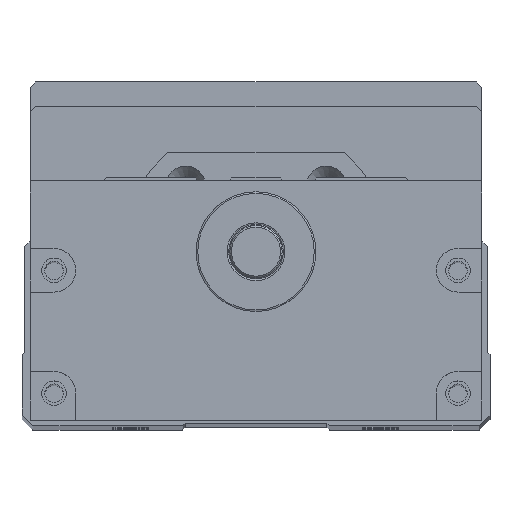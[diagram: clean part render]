
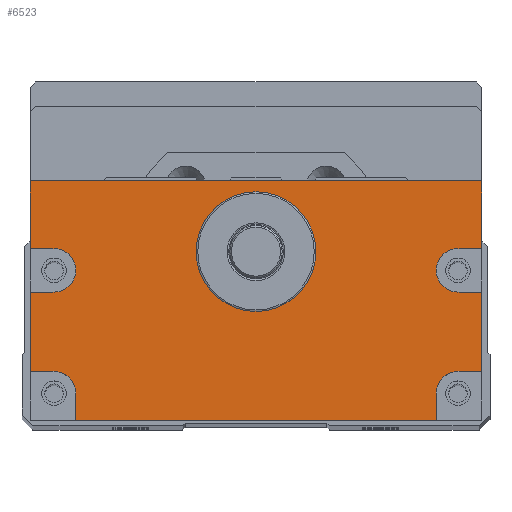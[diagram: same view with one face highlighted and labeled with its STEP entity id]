
A CAD part, top view. The second image highlights one B-rep face of the part: STEP entity #6523.
In plain terms, the highlighted planar face has unit normal (0, 0, 1).
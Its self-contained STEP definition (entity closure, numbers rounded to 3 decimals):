
#518=LINE('',#27308,#1245);
#520=LINE('',#27312,#1247);
#521=LINE('',#27315,#1248);
#522=LINE('',#27317,#1249);
#523=LINE('',#27321,#1250);
#524=LINE('',#27323,#1251);
#525=LINE('',#27324,#1252);
#526=LINE('',#27326,#1253);
#527=LINE('',#27330,#1254);
#528=LINE('',#27332,#1255);
#529=LINE('',#27334,#1256);
#530=LINE('',#27338,#1257);
#531=LINE('',#27340,#1258);
#532=LINE('',#27342,#1259);
#1245=VECTOR('',#15888,1.);
#1247=VECTOR('',#15892,1.);
#1248=VECTOR('',#15893,1.);
#1249=VECTOR('',#15894,1.);
#1250=VECTOR('',#15897,1.);
#1251=VECTOR('',#15898,1.);
#1252=VECTOR('',#15899,1.);
#1253=VECTOR('',#15900,1.);
#1254=VECTOR('',#15903,1.);
#1255=VECTOR('',#15904,1.);
#1256=VECTOR('',#15905,1.);
#1257=VECTOR('',#15908,1.);
#1258=VECTOR('',#15909,1.);
#1259=VECTOR('',#15910,1.);
#6523=ADVANCED_FACE('',(#7399,#7400),#6999,.T.);
#6999=PLANE('',#14386);
#7399=FACE_BOUND('',#7977,.T.);
#7400=FACE_BOUND('',#7978,.T.);
#7977=EDGE_LOOP('',(#9449,#9450,#9451,#9452,#9453,#9454,#9455,#9456,#9457,
#9458,#9459,#9460,#9461,#9462,#9463,#9464,#9465,#9466));
#7978=EDGE_LOOP('',(#9467));
#9449=ORIENTED_EDGE('',*,*,#12728,.F.);
#9450=ORIENTED_EDGE('',*,*,#12729,.T.);
#9451=ORIENTED_EDGE('',*,*,#12730,.F.);
#9452=ORIENTED_EDGE('',*,*,#12731,.F.);
#9453=ORIENTED_EDGE('',*,*,#12732,.F.);
#9454=ORIENTED_EDGE('',*,*,#12733,.T.);
#9455=ORIENTED_EDGE('',*,*,#12726,.T.);
#9456=ORIENTED_EDGE('',*,*,#12734,.T.);
#9457=ORIENTED_EDGE('',*,*,#12735,.F.);
#9458=ORIENTED_EDGE('',*,*,#12736,.F.);
#9459=ORIENTED_EDGE('',*,*,#12737,.F.);
#9460=ORIENTED_EDGE('',*,*,#12738,.T.);
#9461=ORIENTED_EDGE('',*,*,#12739,.F.);
#9462=ORIENTED_EDGE('',*,*,#12740,.F.);
#9463=ORIENTED_EDGE('',*,*,#12741,.F.);
#9464=ORIENTED_EDGE('',*,*,#12742,.T.);
#9465=ORIENTED_EDGE('',*,*,#12743,.F.);
#9466=ORIENTED_EDGE('',*,*,#12744,.F.);
#9467=ORIENTED_EDGE('',*,*,#12712,.T.);
#11600=VERTEX_POINT('',#27279);
#11613=VERTEX_POINT('',#27307);
#11614=VERTEX_POINT('',#27309);
#11615=VERTEX_POINT('',#27313);
#11616=VERTEX_POINT('',#27314);
#11617=VERTEX_POINT('',#27316);
#11618=VERTEX_POINT('',#27318);
#11619=VERTEX_POINT('',#27320);
#11620=VERTEX_POINT('',#27322);
#11621=VERTEX_POINT('',#27325);
#11622=VERTEX_POINT('',#27327);
#11623=VERTEX_POINT('',#27329);
#11624=VERTEX_POINT('',#27331);
#11625=VERTEX_POINT('',#27333);
#11626=VERTEX_POINT('',#27335);
#11627=VERTEX_POINT('',#27337);
#11628=VERTEX_POINT('',#27339);
#11629=VERTEX_POINT('',#27341);
#11630=VERTEX_POINT('',#27343);
#12712=EDGE_CURVE('',#11600,#11600,#13777,.T.);
#12726=EDGE_CURVE('',#11614,#11613,#518,.T.);
#12728=EDGE_CURVE('',#11615,#11616,#520,.T.);
#12729=EDGE_CURVE('',#11615,#11617,#521,.T.);
#12730=EDGE_CURVE('',#11618,#11617,#522,.T.);
#12731=EDGE_CURVE('',#11619,#11618,#13786,.T.);
#12732=EDGE_CURVE('',#11620,#11619,#523,.T.);
#12733=EDGE_CURVE('',#11620,#11614,#524,.T.);
#12734=EDGE_CURVE('',#11613,#11621,#525,.T.);
#12735=EDGE_CURVE('',#11622,#11621,#526,.T.);
#12736=EDGE_CURVE('',#11623,#11622,#13787,.T.);
#12737=EDGE_CURVE('',#11624,#11623,#527,.T.);
#12738=EDGE_CURVE('',#11624,#11625,#528,.T.);
#12739=EDGE_CURVE('',#11626,#11625,#529,.T.);
#12740=EDGE_CURVE('',#11627,#11626,#13788,.T.);
#12741=EDGE_CURVE('',#11628,#11627,#530,.T.);
#12742=EDGE_CURVE('',#11628,#11629,#531,.T.);
#12743=EDGE_CURVE('',#11630,#11629,#532,.T.);
#12744=EDGE_CURVE('',#11616,#11630,#13789,.T.);
#13777=CIRCLE('',#14370,11.);
#13786=CIRCLE('',#14382,4.);
#13787=CIRCLE('',#14383,4.);
#13788=CIRCLE('',#14384,4.);
#13789=CIRCLE('',#14385,4.);
#14370=AXIS2_PLACEMENT_3D('',#27278,#15861,#15862);
#14382=AXIS2_PLACEMENT_3D('',#27319,#15895,#15896);
#14383=AXIS2_PLACEMENT_3D('',#27328,#15901,#15902);
#14384=AXIS2_PLACEMENT_3D('',#27336,#15906,#15907);
#14385=AXIS2_PLACEMENT_3D('',#27344,#15911,#15912);
#14386=AXIS2_PLACEMENT_3D('',#27345,#15913,#15914);
#15861=DIRECTION('',(0.,0.,-1.));
#15862=DIRECTION('',(1.,0.,0.));
#15888=DIRECTION('',(-1.,0.,0.));
#15892=DIRECTION('',(-1.,0.,0.));
#15893=DIRECTION('',(0.,1.,0.));
#15894=DIRECTION('',(1.,0.,0.));
#15895=DIRECTION('',(0.,0.,1.));
#15896=DIRECTION('',(1.,0.,0.));
#15897=DIRECTION('',(-1.,0.,0.));
#15898=DIRECTION('',(0.,1.,0.));
#15899=DIRECTION('',(0.,-1.,0.));
#15900=DIRECTION('',(-1.,0.,0.));
#15901=DIRECTION('',(0.,0.,1.));
#15902=DIRECTION('',(1.,0.,0.));
#15903=DIRECTION('',(1.,0.,0.));
#15904=DIRECTION('',(0.,-1.,0.));
#15905=DIRECTION('',(-1.,0.,0.));
#15906=DIRECTION('',(0.,0.,1.));
#15907=DIRECTION('',(1.,0.,0.));
#15908=DIRECTION('',(0.,1.,0.));
#15909=DIRECTION('',(1.,0.,0.));
#15910=DIRECTION('',(0.,-1.,0.));
#15911=DIRECTION('',(0.,0.,1.));
#15912=DIRECTION('',(1.,0.,0.));
#15913=DIRECTION('',(0.,0.,1.));
#15914=DIRECTION('',(-1.,0.,0.));
#27278=CARTESIAN_POINT('',(600.,0.,282.5));
#27279=CARTESIAN_POINT('',(611.,0.,282.5));
#27307=CARTESIAN_POINT('',(558.5,13.,282.5));
#27308=CARTESIAN_POINT('',(641.5,13.,282.5));
#27309=CARTESIAN_POINT('',(641.5,13.,282.5));
#27312=CARTESIAN_POINT('',(641.5,-22.,282.5));
#27313=CARTESIAN_POINT('',(641.5,-22.,282.5));
#27314=CARTESIAN_POINT('',(637.115,-22.,282.5));
#27315=CARTESIAN_POINT('',(641.5,-31.,282.5));
#27316=CARTESIAN_POINT('',(641.5,-7.431,282.5));
#27317=CARTESIAN_POINT('',(641.5,-7.431,282.5));
#27318=CARTESIAN_POINT('',(637.115,-7.431,282.5));
#27319=CARTESIAN_POINT('',(637.115,-3.431,282.5));
#27320=CARTESIAN_POINT('',(637.115,0.569,282.5));
#27321=CARTESIAN_POINT('',(641.5,0.569,282.5));
#27322=CARTESIAN_POINT('',(641.5,0.569,282.5));
#27323=CARTESIAN_POINT('',(641.5,-31.,282.5));
#27324=CARTESIAN_POINT('',(558.5,27.5,282.5));
#27325=CARTESIAN_POINT('',(558.5,0.569,282.5));
#27326=CARTESIAN_POINT('',(641.5,0.569,282.5));
#27327=CARTESIAN_POINT('',(562.885,0.569,282.5));
#27328=CARTESIAN_POINT('',(562.885,-3.431,282.5));
#27329=CARTESIAN_POINT('',(562.885,-7.431,282.5));
#27330=CARTESIAN_POINT('',(641.5,-7.431,282.5));
#27331=CARTESIAN_POINT('',(558.5,-7.431,282.5));
#27332=CARTESIAN_POINT('',(558.5,27.5,282.5));
#27333=CARTESIAN_POINT('',(558.5,-22.,282.5));
#27334=CARTESIAN_POINT('',(641.5,-22.,282.5));
#27335=CARTESIAN_POINT('',(562.885,-22.,282.5));
#27336=CARTESIAN_POINT('',(562.885,-26.,282.5));
#27337=CARTESIAN_POINT('',(566.885,-26.,282.5));
#27338=CARTESIAN_POINT('',(566.885,-31.,282.5));
#27339=CARTESIAN_POINT('',(566.885,-31.,282.5));
#27340=CARTESIAN_POINT('',(558.5,-31.,282.5));
#27341=CARTESIAN_POINT('',(633.115,-31.,282.5));
#27342=CARTESIAN_POINT('',(633.115,-31.,282.5));
#27343=CARTESIAN_POINT('',(633.115,-26.,282.5));
#27344=CARTESIAN_POINT('',(637.115,-26.,282.5));
#27345=CARTESIAN_POINT('',(641.5,-31.,282.5));
